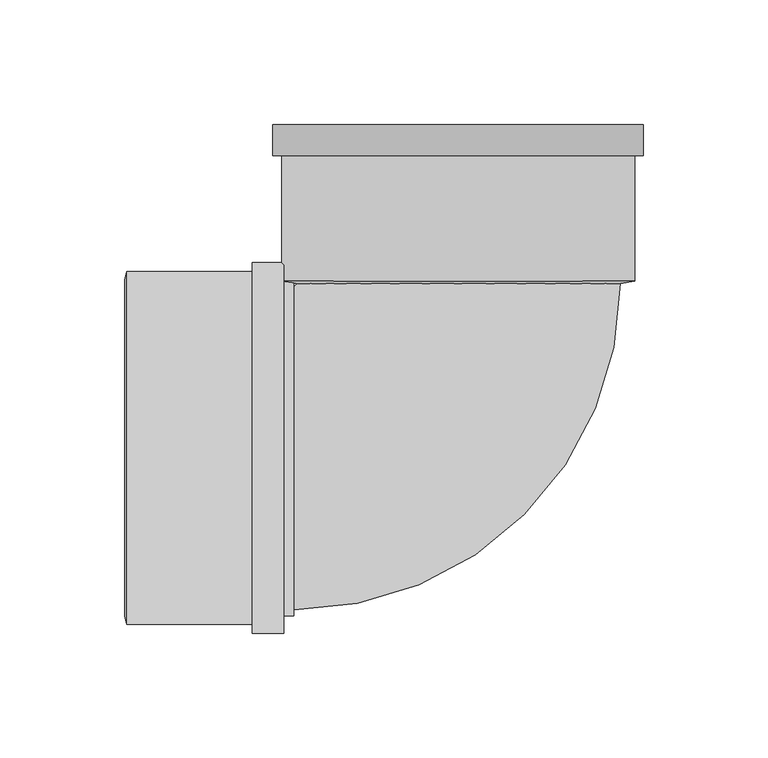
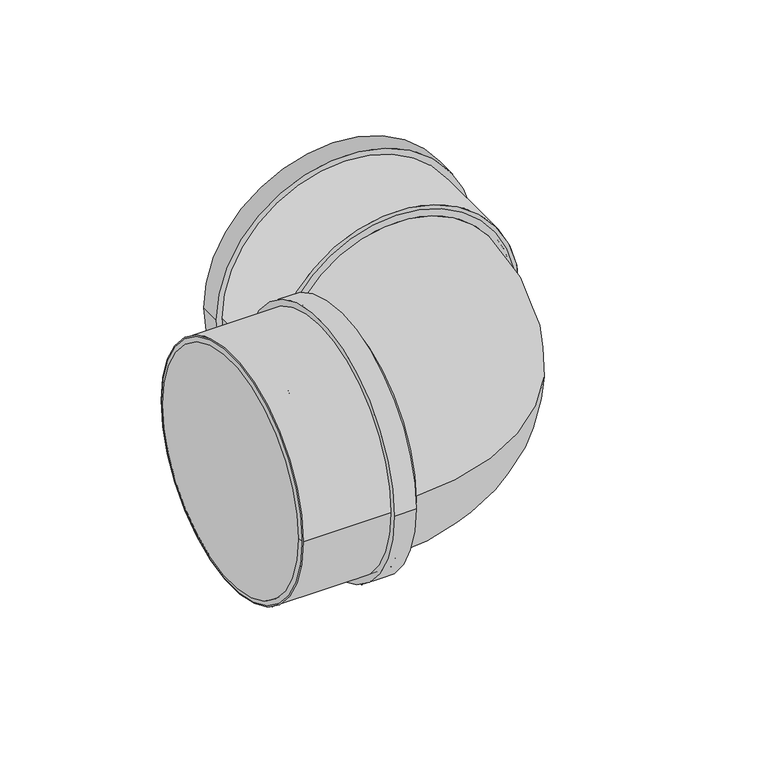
"""IFC4 building model written with IfcOpenShell, lengths in millimetres: pipe fitting geometry, Superdrain SK Bend_Composite 2x45 : Superdrain SK Bend_Composite 2x45."""

from ifc_helpers import new_model, si_unit, point, frame, origin, origin_2d, place, context, project, spatial, polyline, circle_curve, ellipse_curve, trimmed, segment, composite_curve, outline, extrude, source, transform, mapped, element, save
from ifc_brep_helpers import plane_surface, revolved_surface, advanced_brep


def pipe_fitting_5cdc0576(model_context):
    return source(origin(), model_context, "Body", "SolidModel", [
        extrude(outline(composite_curve([segment(trimmed(circle_curve(origin_2d(), 70.875), [point((70.875, 0.0))], [point((-70.875, 0.0))], False, "CARTESIAN"), True, "CONTINUOUS"), segment(trimmed(circle_curve(origin_2d(), 70.875), [point((-70.875, 0.0))], [point((70.875, 0.0))], False, "CARTESIAN"), True, "CONTINUOUS")], self_intersect=False), holes=[composite_curve([segment(trimmed(circle_curve(origin_2d(), 67.5), [point((67.5, 0.0))], [point((-67.5, 0.0))], True, "CARTESIAN"), True, "CONTINUOUS"), segment(trimmed(circle_curve(origin_2d(), 67.5), [point((-67.5, 0.0))], [point((67.5, 0.0))], True, "CARTESIAN"), True, "CONTINUOUS")], self_intersect=False)]), frame((-133.0, 0.0, 0.0), z_axis=(1.0, 0.0, 0.0), x_axis=(0.0, 1.0, 0.0)), (0.0, 0.0, 1.0), 63.0),
        extrude(outline(composite_curve([segment(trimmed(circle_curve(origin_2d(), 74.41875), [point((74.41875, 0.0))], [point((-74.41875, 0.0))], False, "CARTESIAN"), True, "CONTINUOUS"), segment(trimmed(circle_curve(origin_2d(), 74.41875), [point((-74.41875, 0.0))], [point((74.41875, 0.0))], False, "CARTESIAN"), True, "CONTINUOUS")], self_intersect=False), holes=[composite_curve([segment(trimmed(circle_curve(origin_2d(), 67.5), [point((67.5, 0.0))], [point((-67.5, 0.0))], True, "CARTESIAN"), True, "CONTINUOUS"), segment(trimmed(circle_curve(origin_2d(), 67.5), [point((-67.5, 0.0))], [point((67.5, 0.0))], True, "CARTESIAN"), True, "CONTINUOUS")], self_intersect=False)]), frame((-82.6, 0.0, 0.0), z_axis=(1.0, 0.0, 0.0), x_axis=(0.0, 1.0, 0.0)), (0.0, 0.0, 1.0), 12.6),
        advanced_brep(
        [(-134.0, 67.5, 0.0), (-134.0, -67.5, 0.0), (-133.0, 70.875, 0.0), (-133.0, -70.875, 0.0)],
        [
            (0, 1, circle_curve(frame((-134.0, 0.0, 0.0), z_axis=(-1.0, 0.0, 0.0), x_axis=(0.0, 1.0, 0.0)), 67.5)),
            (1, 0, circle_curve(frame((-134.0, 0.0, 0.0), z_axis=(-1.0, 0.0, 0.0), x_axis=(0.0, -1.0, 0.0)), 67.5)),
            (2, 3, circle_curve(frame((-133.0, 0.0, 0.0), z_axis=(1.0, 0.0, 0.0), x_axis=(0.0, -1.0, 0.0)), 70.875)),
            (3, 2, circle_curve(frame((-133.0, 0.0, 0.0), z_axis=(1.0, 0.0, 0.0), x_axis=(0.0, 1.0, 0.0)), 70.875)),
            (3, 1),
            (0, 2),
        ],
        [
            plane_surface(frame((-134.0, 0.0, 0.0), z_axis=(-1.0, 0.0, 0.0), x_axis=(0.0, 0.0, -1.0))),
            plane_surface(frame((-133.0, 0.0, 0.0), z_axis=(1.0, 0.0, 0.0), x_axis=(0.0, 0.0, -1.0))),
            revolved_surface(polyline([(-134.0, 67.5, 0.0), (-133.0, 70.875, 0.0)]), (-154.0, 0.0, 0.0), (1.0, 0.0, 0.0)),
            revolved_surface(polyline([(-134.0, -67.5, 0.0), (-133.0, -70.875, 0.0)]), (-154.0, 0.0, 0.0), (1.0, 0.0, 0.0)),
        ],
        [
            (0, [[1, 2]]),
            (1, [[3, 4]]),
            (2, [[-4, 5, -1, 6]]),
            (3, [[-3, -6, -2, -5]]),
        ],
    ),
        advanced_brep(
        [(65.0, 66.0, 0.0), (-65.0, 66.0, 0.0), (-66.0, -65.0, 0.0), (-66.0, 65.0, 0.0)],
        [
            (0, 1, circle_curve(frame((0.0, 66.0, 0.0), z_axis=(0.0, 1.0, 0.0), x_axis=(-1.0, 0.0, 0.0)), 65.0)),
            (1, 0, circle_curve(frame((0.0, 66.0, 0.0), z_axis=(0.0, 1.0, 0.0), x_axis=(-1.0, 0.0, 0.0)), 65.0)),
            (2, 3, circle_curve(frame((-66.0, 0.0, 0.0), z_axis=(-1.0, 0.0, 0.0), x_axis=(0.0, 1.0, 0.0)), 65.0)),
            (3, 2, circle_curve(frame((-66.0, 0.0, 0.0), z_axis=(-1.0, 0.0, 0.0), x_axis=(0.0, 1.0, 0.0)), 65.0)),
            (3, 1, circle_curve(frame((-66.0, 66.0, 0.0), z_axis=(0.0, 0.0, 1.0), x_axis=(1.0, 0.0, 0.0)), 1.0)),
            (0, 2, circle_curve(frame((-66.0, 66.0, 0.0), z_axis=(0.0, 0.0, -1.0), x_axis=(1.0, 0.0, 0.0)), 131.0)),
        ],
        [
            plane_surface(frame((0.0, 66.0, 0.0), z_axis=(0.0, 1.0, 0.0), x_axis=(0.0, 0.0, -1.0))),
            plane_surface(frame((-66.0, 0.0, 0.0), z_axis=(-1.0, 0.0, 0.0), x_axis=(0.0, 0.0, -1.0))),
            revolved_surface(trimmed(ellipse_curve(frame((0.0, 66.0, 0.0), z_axis=(0.0, -1.0, 0.0), x_axis=(-1.0, 0.0, 0.0)), 65.0, 65.0), [point((-65.0, 66.0, 0.0))], [point((65.0, 66.0, 0.0))], True, "CARTESIAN"), (-66.0, 66.0, 0.0), (0.0, 0.0, 1.0)),
            revolved_surface(trimmed(ellipse_curve(frame((0.0, 66.0, 0.0), z_axis=(0.0, -1.0, 0.0), x_axis=(-1.0, 0.0, 0.0)), 65.0, 65.0), [point((65.0, 66.0, 0.0))], [point((-65.0, 66.0, 0.0))], True, "CARTESIAN"), (-66.0, 66.0, 0.0), (0.0, 0.0, 1.0)),
        ],
        [
            (0, [[1, 2]]),
            (1, [[3, 4]]),
            (2, [[-4, 5, -1, 6]]),
            (3, [[-3, -6, -2, -5]]),
        ],
    ),
        extrude(outline(composite_curve([segment(trimmed(circle_curve(origin_2d(), 70.875), [point((0.0, 70.875))], [point((0.0, -70.875))], False, "CARTESIAN"), True, "CONTINUOUS"), segment(trimmed(circle_curve(origin_2d(), 70.875), [point((0.0, -70.875))], [point((0.0, 70.875))], False, "CARTESIAN"), True, "CONTINUOUS")], self_intersect=False), holes=[composite_curve([segment(trimmed(circle_curve(origin_2d(), 67.5), [point((0.0, 67.5))], [point((0.0, -67.5))], True, "CARTESIAN"), True, "CONTINUOUS"), segment(trimmed(circle_curve(origin_2d(), 67.5), [point((0.0, -67.5))], [point((0.0, 67.5))], True, "CARTESIAN"), True, "CONTINUOUS")], self_intersect=False)]), frame((0.0, 67.0, 0.0), z_axis=(0.0, 1.0, 0.0), x_axis=(0.0, 0.0, 1.0)), (0.0, 0.0, 1.0), 63.0),
        extrude(outline(composite_curve([segment(trimmed(circle_curve(origin_2d(), 74.41875), [point((0.0, -74.41875))], [point((0.0, 74.41875))], False, "CARTESIAN"), True, "CONTINUOUS"), segment(trimmed(circle_curve(origin_2d(), 74.41875), [point((0.0, 74.41875))], [point((0.0, -74.41875))], False, "CARTESIAN"), True, "CONTINUOUS")], self_intersect=False), holes=[composite_curve([segment(trimmed(circle_curve(origin_2d(), 67.5), [point((0.0, -67.5))], [point((0.0, 67.5))], True, "CARTESIAN"), True, "CONTINUOUS"), segment(trimmed(circle_curve(origin_2d(), 67.5), [point((0.0, 67.5))], [point((0.0, -67.5))], True, "CARTESIAN"), True, "CONTINUOUS")], self_intersect=False)]), frame((0.0, 117.4, 0.0), z_axis=(0.0, 1.0, 0.0), x_axis=(0.0, 0.0, 1.0)), (0.0, 0.0, 1.0), 12.6),
        advanced_brep(
        [(70.875, 67.0, 0.0), (-70.875, 67.0, 0.0), (65.0, 66.0, 0.0), (-65.0, 66.0, 0.0)],
        [
            (0, 1, circle_curve(frame((0.0, 67.0, 0.0), z_axis=(0.0, 1.0, 0.0), x_axis=(1.0, 0.0, 0.0)), 70.875)),
            (1, 0, circle_curve(frame((0.0, 67.0, 0.0), z_axis=(0.0, 1.0, 0.0), x_axis=(-1.0, 0.0, 0.0)), 70.875)),
            (2, 3, circle_curve(frame((0.0, 66.0, 0.0), z_axis=(0.0, -1.0, 0.0), x_axis=(-1.0, 0.0, 0.0)), 65.0)),
            (3, 2, circle_curve(frame((0.0, 66.0, 0.0), z_axis=(0.0, -1.0, 0.0), x_axis=(1.0, 0.0, 0.0)), 65.0)),
            (3, 1),
            (0, 2),
        ],
        [
            plane_surface(frame((0.0, 67.0, 0.0), z_axis=(0.0, 1.0, 0.0), x_axis=(0.0, 0.0, -1.0))),
            plane_surface(frame((0.0, 66.0, 0.0), z_axis=(0.0, -1.0, 0.0), x_axis=(0.0, 0.0, -1.0))),
            revolved_surface(polyline([(-65.00000000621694, 66.0, 0.0), (-70.875, 67.0, 0.0)]), (0.0, 54.9361702, 0.0), (0.0, 1.0, 0.0)),
            revolved_surface(polyline([(65.00000000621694, 66.0, 0.0), (70.875, 67.0, 0.0)]), (0.0, 54.9361702, 0.0), (0.0, 1.0, 0.0)),
        ],
        [
            (0, [[1, 2]]),
            (1, [[3, 4]]),
            (2, [[-4, 5, -1, 6]]),
            (3, [[-3, -6, -2, -5]]),
        ],
    ),
        extrude(outline(composite_curve([segment(trimmed(circle_curve(origin_2d(), 67.5), [point((-67.5, 0.0))], [point((67.5, 0.0))], False, "CARTESIAN"), True, "CONTINUOUS"), segment(trimmed(circle_curve(origin_2d(), 67.5), [point((67.5, 0.0))], [point((-67.5, 0.0))], False, "CARTESIAN"), True, "CONTINUOUS")], self_intersect=False)), frame((-133.0, 0.0, 0.0), z_axis=(1.0, 0.0, 0.0), x_axis=(0.0, 1.0, 0.0)), (0.0, 0.0, 1.0), 67.0),
    ])


if __name__ == "__main__":
    model = new_model("IFC4")
    model_context = context("Model", 3, world=origin())
    ifc_project = project(units=[si_unit("LENGTHUNIT", "METRE", prefix="MILLI")], contexts=[model_context])
    site = spatial("IfcSite", under=ifc_project)
    building = spatial("IfcBuilding", under=site)
    placement = place(None, origin())
    pipe_fitting_shape = pipe_fitting_5cdc0576(model_context)
    element("IfcPipeFitting", 1, ObjectType="Superdrain SK Bend_Composite 2x45 : Superdrain SK Bend_Composite 2x45", at=placement, inside=building, context=model_context, shape_type="MappedRepresentation", body=[
        mapped(pipe_fitting_shape, transform((0.0, 0.0, 0.0), x_axis=(1.0, 0.0, 0.0), y_axis=(0.0, 1.0, 0.0), z_axis=(0.0, 0.0, 1.0))),
    ])
    save(model, "model.ifc")
